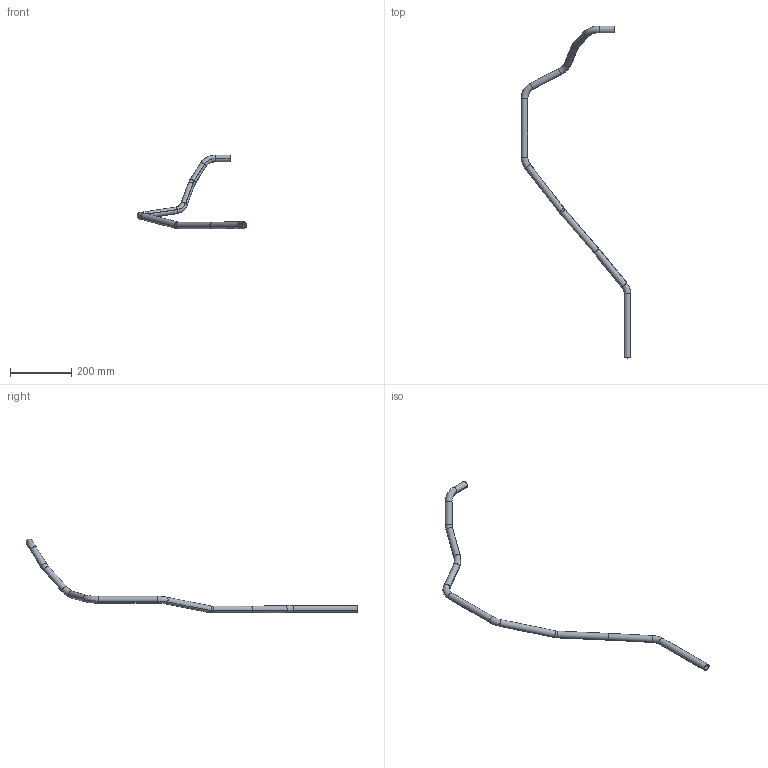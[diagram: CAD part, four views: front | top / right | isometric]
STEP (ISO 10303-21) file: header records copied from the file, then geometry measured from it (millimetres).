
FILE_DESCRIPTION(('CATIA V5 STEP Exchange','CAx-IF Rec.Pracs.--- Model Styling and Organization---1.2---2011-12-15'),'2;1');
FILE_NAME('c:\aplikace\smarteam\Temp\DO584746.step','2016-07-11T09:19:46+00:00',('none'),('none'),'CATIA Version 5 Release 21 SP 6 (IN-10)','CATIA V5 STEP AP214','none');
FILE_SCHEMA(('AUTOMOTIVE_DESIGN { 1 0 10303 214 1 1 1 1 }'));
Length unit declared in the file: millimetre
Products named in the file (1): DO584746, TRUBKA T5
Bounding box: 356.96 x 1079.79 x 239.92 mm (x, y, z)
Volume: 138328.4 mm3; surface area: 184631 mm2
Topology: 1 solids, 1 shells, 66 faces, 132 edges, 68 vertices
Faces by surface type: cylinder 36, torus 28, plane 2
Entity records: 1533 total; most frequent: CARTESIAN_POINT 315, ORIENTED_EDGE 264, DIRECTION 196, EDGE_CURVE 132, AXIS2_PLACEMENT_3D 127, CIRCLE 92, EDGE_LOOP 68, VERTEX_POINT 68
